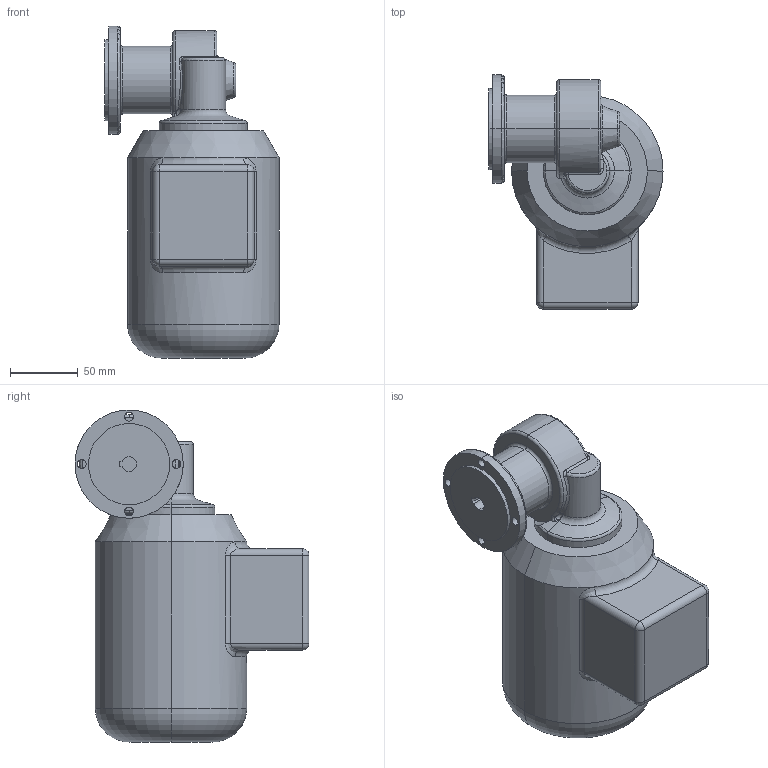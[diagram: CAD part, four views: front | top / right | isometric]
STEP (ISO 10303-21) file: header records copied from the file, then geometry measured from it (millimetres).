
FILE_DESCRIPTION (( 'STEP AP203' ), '1' );
FILE_NAME ('SN5FLH-90,120W-C.STEP', '2010-08-23T10:35:16', ( ' ' ), ( ' ' ), 'SwSTEP 2.0', 'SolidWorks 2010', '' );
FILE_SCHEMA (( 'CONFIG_CONTROL_DESIGN' ));
Length unit declared in the file: millimetre
Products named in the file (3): SN5FLH-90,120W-C; SN5FLH; BG56of
Assembly tree (2 placements, depth 2):
  SN5FLH-90,120W-C
    BG56of
    SN5FLH
Bounding box: 128.7 x 173 x 245.5 mm (x, y, z)
Volume: 2171376.4 mm3; surface area: 124608.6 mm2
Topology: 2 solids, 2 shells, 112 faces, 268 edges, 156 vertices
Faces by surface type: cylinder 39, torus 28, plane 19, bspline 15, cone 7, sphere 4
Entity records: 4715 total; most frequent: CARTESIAN_POINT 1870, DIRECTION 569, ORIENTED_EDGE 528, EDGE_CURVE 264, AXIS2_PLACEMENT_3D 251, VERTEX_POINT 156, CIRCLE 149, EDGE_LOOP 120
